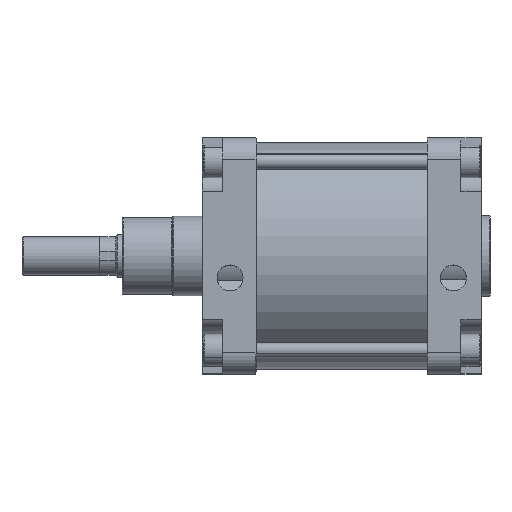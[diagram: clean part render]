
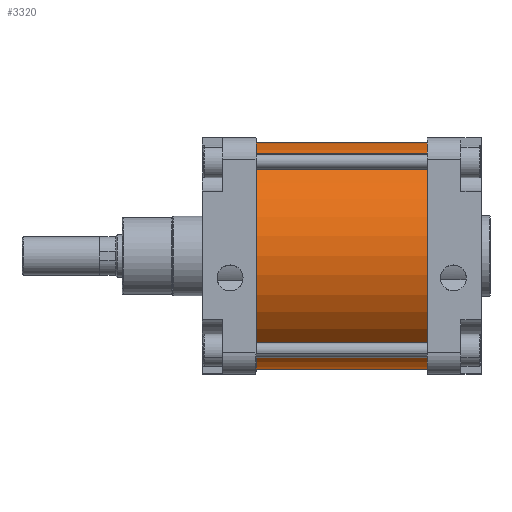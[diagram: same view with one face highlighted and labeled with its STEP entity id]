
A CAD part, top view. The second image highlights one B-rep face of the part: STEP entity #3320.
In plain terms, the highlighted cylindrical face has radius 105 mm (diameter 210 mm), a partial arc.
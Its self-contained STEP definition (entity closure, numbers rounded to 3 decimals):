
#3281=CARTESIAN_POINT('Axis2P3D Location',(79.5,0.,0.)) ;
#3286=CARTESIAN_POINT('Line Origine',(79.5,105.,0.)) ;
#3290=CARTESIAN_POINT('Vertex',(0.,105.,0.)) ;
#3292=CARTESIAN_POINT('Vertex',(159.,105.,0.)) ;
#3295=CARTESIAN_POINT('Axis2P3D Location',(0.,0.,0.)) ;
#3299=CARTESIAN_POINT('Vertex',(0.,-105.,0.)) ;
#3302=CARTESIAN_POINT('Line Origine',(79.5,-105.,0.)) ;
#3306=CARTESIAN_POINT('Vertex',(159.,-105.,0.)) ;
#3309=CARTESIAN_POINT('Axis2P3D Location',(159.,0.,0.)) ;
#3282=DIRECTION('Axis2P3D Direction',(1.,0.,0.)) ;
#3283=DIRECTION('Axis2P3D XDirection',(0.,1.,0.)) ;
#3287=DIRECTION('Vector Direction',(1.,0.,0.)) ;
#3296=DIRECTION('Axis2P3D Direction',(1.,0.,0.)) ;
#3303=DIRECTION('Vector Direction',(1.,0.,0.)) ;
#3310=DIRECTION('Axis2P3D Direction',(1.,0.,0.)) ;
#3284=AXIS2_PLACEMENT_3D('Cylinder Axis2P3D',#3281,#3282,#3283) ;
#3297=AXIS2_PLACEMENT_3D('Circle Axis2P3D',#3295,#3296,$) ;
#3311=AXIS2_PLACEMENT_3D('Circle Axis2P3D',#3309,#3310,$) ;
#3315=ORIENTED_EDGE('',*,*,#3294,.F.) ;
#3316=ORIENTED_EDGE('',*,*,#3301,.T.) ;
#3317=ORIENTED_EDGE('',*,*,#3308,.T.) ;
#3318=ORIENTED_EDGE('',*,*,#3313,.F.) ;
#3288=VECTOR('Line Direction',#3287,1.) ;
#3304=VECTOR('Line Direction',#3303,1.) ;
#3320=ADVANCED_FACE('PartBody',(#3319),#3285,.T.) ;
#3298=CIRCLE('generated circle',#3297,105.) ;
#3312=CIRCLE('generated circle',#3311,105.) ;
#3285=CYLINDRICAL_SURFACE('generated cylinder',#3284,105.) ;
#3294=EDGE_CURVE('',#3291,#3293,#3289,.T.) ;
#3301=EDGE_CURVE('',#3291,#3300,#3298,.T.) ;
#3308=EDGE_CURVE('',#3300,#3307,#3305,.T.) ;
#3313=EDGE_CURVE('',#3293,#3307,#3312,.T.) ;
#3314=EDGE_LOOP('',(#3315,#3316,#3317,#3318)) ;
#3319=FACE_OUTER_BOUND('',#3314,.T.) ;
#3289=LINE('Line',#3286,#3288) ;
#3305=LINE('Line',#3302,#3304) ;
#3291=VERTEX_POINT('',#3290) ;
#3293=VERTEX_POINT('',#3292) ;
#3300=VERTEX_POINT('',#3299) ;
#3307=VERTEX_POINT('',#3306) ;
